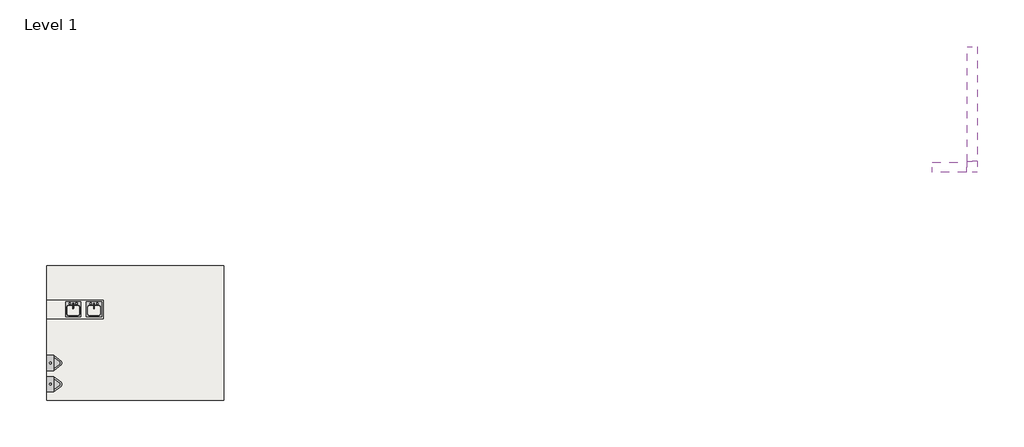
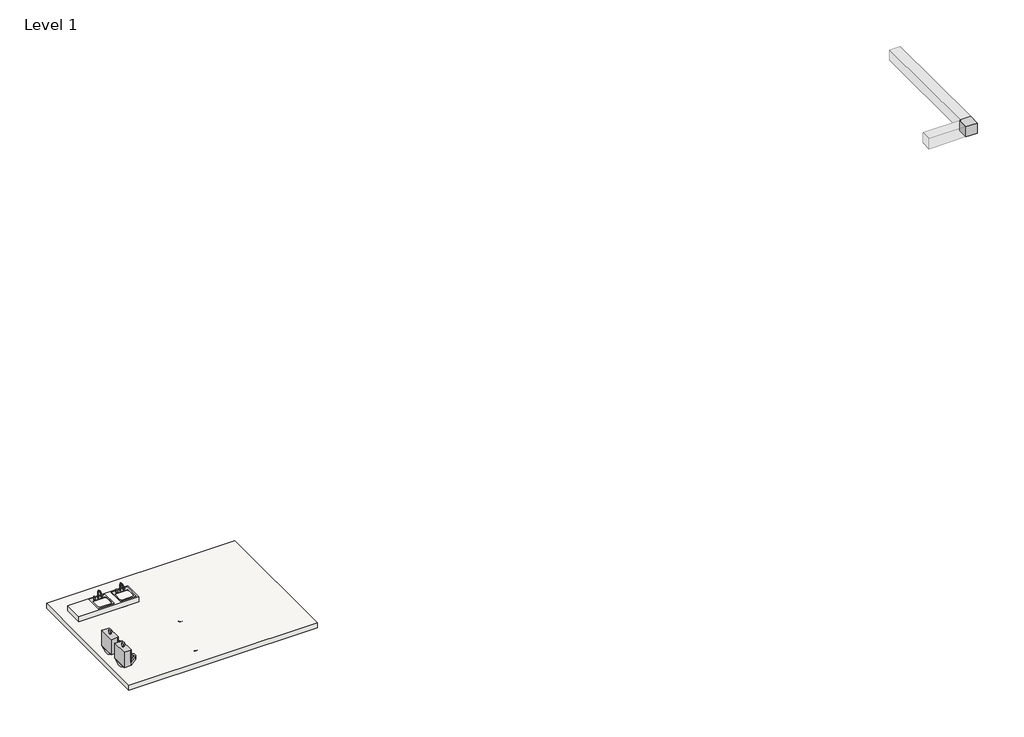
# One storey, incomplete: 5 flow terminals, 4 pipe fittings, 4 pipe segments, 2 duct segments, 2 slabs, 1 duct fitting.
"""IFC4 building model written with IfcOpenShell, lengths in millimetres."""

from ifc_helpers import new_model, si_unit, point, frame, frame_2d, origin, place, context, project, spatial, polyline, circle_curve, trimmed, segment, composite_curve, outline, extrude, transform, mapped, element, save
from components import rectangular_elbow_mitered_standard_4ff1c4e8, flow_terminal_accce45a, flow_terminal_ae45b8c9, flow_terminal_2caf3f76, bend_pvc_sch_40_dwv_standard_a4b99d37, bend_pvc_sch_40_dwv_standard_1eaeee76, reducer_pvc_sch_40_dwv_standard_44865e00

model = new_model("IFC4")

# Units and contexts
model_context = context("Model", 3, world=origin())
ifc_project = project(units=[si_unit("LENGTHUNIT", "METRE", prefix="MILLI")], contexts=[model_context])

# Site, building, storey
site = spatial("IfcSite", under=ifc_project)
building = spatial("IfcBuilding", under=site)
storey = spatial("IfcBuildingStorey", under=building, Name="Level 1", Elevation=0.0)

# Duct fitting
placement = place(None, origin())
rectangular_elbow_mitered_standard_shape = rectangular_elbow_mitered_standard_4ff1c4e8(model_context)
element("IfcDuctFitting", 1, ObjectType="Rectangular Elbow - Mitered : Standard", at=placement, inside=storey, context=model_context, shape_type="MappedRepresentation", body=[
    mapped(rectangular_elbow_mitered_standard_shape, transform((12105.3812915, 1084.8792911, 2743.2), x_axis=(1.0, 0.0, 0.0), y_axis=(0.0, 1.0, 0.0), z_axis=(0.0, 0.0, 1.0))),
])

# Duct segments
element("IfcDuctSegment", 2, ObjectType="Mitered Elbows / Tees", at=placement, inside=storey, context=model_context, shape_type="SweptSolid", body=[
    extrude(outline(polyline([(11952.9812915, 4742.4792911), (12257.7812915, 4742.4792911), (12257.7812915, 1262.6792911), (11952.9812915, 1262.6792911), (11952.9812915, 4742.4792911)])), frame((0.0, 0.0, 2590.8), z_axis=(0.0, 0.0, 1.0), x_axis=(1.0, 0.0, 0.0)), (0.0, 0.0, 1.0), 304.8),
])
element("IfcDuctSegment", 3, ObjectType="Mitered Elbows / Tees", at=placement, inside=storey, context=model_context, shape_type="SweptSolid", body=[
    extrude(outline(polyline([(11927.5812915, 1237.2792911), (11927.5812915, 932.4792911), (10886.1812915, 932.4792911), (10886.1812915, 1237.2792911), (11927.5812915, 1237.2792911)])), frame((0.0, 0.0, 2590.8), z_axis=(0.0, 0.0, 1.0), x_axis=(1.0, 0.0, 0.0)), (0.0, 0.0, 1.0), 304.8),
])

# Flow terminals
flow_terminal_shape = flow_terminal_accce45a(model_context)
element("IfcFlowTerminal", 4, ObjectType="Floor Drain - Round : 5\" Strainer - 2\" Drain", at=placement, inside=storey, context=model_context, shape_type="MappedRepresentation", body=[
    mapped(flow_terminal_shape, transform((-13473.9870906, -4201.0517477, 0.0), x_axis=(1.0, 0.0, 0.0), y_axis=(0.0, 1.0, 0.0), z_axis=(0.0, 0.0, 1.0))),
])
flow_terminal_2_shape = flow_terminal_ae45b8c9(model_context)
element("IfcFlowTerminal", 5, ObjectType="Sink - Island - Single : 18\"x18\" - Private", at=placement, inside=storey, context=model_context, shape_type="MappedRepresentation", body=[
    mapped(flow_terminal_2_shape, transform((-14524.5660694, -3223.0582256, 558.8), x_axis=(1.0, 0.0, 0.0), y_axis=(0.0, 1.0, 0.0), z_axis=(0.0, 0.0, 1.0))),
])
element("IfcFlowTerminal", 6, ObjectType="Sink - Island - Single : 18\"x18\" - Private", at=placement, inside=storey, context=model_context, shape_type="MappedRepresentation", body=[
    mapped(flow_terminal_2_shape, transform((-15154.9134567, -3223.0582256, 558.8), x_axis=(1.0, 0.0, 0.0), y_axis=(0.0, 1.0, 0.0), z_axis=(0.0, 0.0, 1.0))),
])
flow_terminal_3_shape = flow_terminal_2caf3f76(model_context)
element("IfcFlowTerminal", 7, ObjectType="Urinal - Wall Hung : 3/4\" Flush Valve", at=placement, inside=storey, context=model_context, shape_type="MappedRepresentation", body=[
    mapped(flow_terminal_3_shape, transform((-15951.155561, -5492.3088199, 457.2), x_axis=(0.0, 1.0, 0.0), y_axis=(0.0, 0.0, 1.0), z_axis=(1.0, 0.0, 0.0))),
])
element("IfcFlowTerminal", 8, ObjectType="Urinal - Wall Hung : 3/4\" Flush Valve", at=placement, inside=storey, context=model_context, shape_type="MappedRepresentation", body=[
    mapped(flow_terminal_3_shape, transform((-15951.155561, -4850.500571, 457.2), x_axis=(0.0, 1.0, 0.0), y_axis=(0.0, 0.0, 1.0), z_axis=(1.0, 0.0, 0.0))),
])

# Pipe fittings
bend_pvc_sch_40_dwv_standard_shape = bend_pvc_sch_40_dwv_standard_a4b99d37(model_context)
element("IfcPipeFitting", 9, ObjectType="Bend - PVC - Sch 40 - DWV : Standard", at=placement, inside=storey, context=model_context, shape_type="MappedRepresentation", body=[
    mapped(bend_pvc_sch_40_dwv_standard_shape, transform((-13781.8601361, -5494.3570041, -304.8), x_axis=(0.0, 0.0, -1.0), y_axis=(1.0, 0.0, 0.0), z_axis=(0.0, -1.0, 0.0))),
])
bend_pvc_sch_40_dwv_standard_2_shape = bend_pvc_sch_40_dwv_standard_1eaeee76(model_context)
element("IfcPipeFitting", 10, ObjectType="Bend - PVC - Sch 40 - DWV : Standard", at=placement, inside=storey, context=model_context, shape_type="MappedRepresentation", body=[
    mapped(bend_pvc_sch_40_dwv_standard_2_shape, transform((-13473.9870906, -4201.0517477, -304.8), x_axis=(0.0, 0.0, -1.0), y_axis=(0.0, -1.0, 0.0), z_axis=(-1.0, 0.0, 0.0))),
])
element("IfcPipeFitting", 11, ObjectType="Bend - PVC - Sch 40 - DWV : Standard", at=placement, inside=storey, context=model_context, shape_type="MappedRepresentation", body=[
    mapped(bend_pvc_sch_40_dwv_standard_2_shape, transform((-13473.9870906, -5494.3570041, -304.8), x_axis=(1.0, 0.0, 0.0), y_axis=(0.0, 1.0, 0.0), z_axis=(0.0, 0.0, 1.0))),
])
reducer_pvc_sch_40_dwv_standard_shape = reducer_pvc_sch_40_dwv_standard_44865e00(model_context)
element("IfcPipeFitting", 12, ObjectType="Reducer - PVC - Sch 40 - DWV : Standard", at=placement, inside=storey, context=model_context, shape_type="MappedRepresentation", body=[
    mapped(reducer_pvc_sch_40_dwv_standard_shape, transform((-13551.7872906, -5494.3570041, -304.8), x_axis=(-1.0, 0.0, 0.0), y_axis=(0.0, -1.0, 0.0), z_axis=(0.0, 0.0, 1.0))),
])

# Pipe segments
element("IfcPipeSegment", 13, ObjectType="PVC - DWV", at=placement, inside=storey, context=model_context, shape_type="SweptSolid", body=[
    extrude(outline(composite_curve([segment(trimmed(circle_curve(frame_2d((-5494.3570041, -304.8)), 44.45), [point((-5538.8070041, -304.8))], [point((-5494.3570041, -260.35))], False, "CARTESIAN"), True, "CONTINUOUS"), segment(trimmed(circle_curve(frame_2d((-5494.3570041, -304.8)), 44.45), [point((-5494.3570041, -260.35))], [point((-5449.9070041, -304.8))], False, "CARTESIAN"), True, "CONTINUOUS"), segment(trimmed(circle_curve(frame_2d((-5494.3570041, -304.8)), 44.45), [point((-5449.9070041, -304.8))], [point((-5494.3570041, -349.25))], False, "CARTESIAN"), True, "CONTINUOUS"), segment(trimmed(circle_curve(frame_2d((-5494.3570041, -304.8)), 44.45), [point((-5494.3570041, -349.25))], [point((-5538.8070041, -304.8))], False, "CARTESIAN"), True, "CONTINUOUS")], self_intersect=False)), frame((-13665.9599361, 0.0, 0.0), z_axis=(1.0, 0.0, 0.0), x_axis=(0.0, 1.0, 0.0)), (0.0, 0.0, 1.0), 34.7976455),
])
element("IfcPipeSegment", 14, ObjectType="PVC - DWV", at=placement, inside=storey, context=model_context, shape_type="SweptSolid", body=[
    extrude(outline(composite_curve([segment(trimmed(circle_curve(frame_2d((-13781.8601361, -5494.3570041)), 44.45), [point((-13737.4101361, -5494.3570041))], [point((-13781.8601361, -5538.8070041))], False, "CARTESIAN"), True, "CONTINUOUS"), segment(trimmed(circle_curve(frame_2d((-13781.8601361, -5494.3570041)), 44.45), [point((-13781.8601361, -5538.8070041))], [point((-13826.3101361, -5494.3570041))], False, "CARTESIAN"), True, "CONTINUOUS"), segment(trimmed(circle_curve(frame_2d((-13781.8601361, -5494.3570041)), 44.45), [point((-13826.3101361, -5494.3570041))], [point((-13781.8601361, -5449.9070041))], False, "CARTESIAN"), True, "CONTINUOUS"), segment(trimmed(circle_curve(frame_2d((-13781.8601361, -5494.3570041)), 44.45), [point((-13781.8601361, -5449.9070041))], [point((-13737.4101361, -5494.3570041))], False, "CARTESIAN"), True, "CONTINUOUS")], self_intersect=False)), frame((0.0, 0.0, -188.8998), z_axis=(0.0, 0.0, 1.0), x_axis=(1.0, 0.0, 0.0)), (0.0, 0.0, 1.0), 188.8998),
])
element("IfcPipeSegment", 15, ObjectType="PVC - DWV", at=placement, inside=storey, context=model_context, shape_type="SweptSolid", body=[
    extrude(outline(composite_curve([segment(trimmed(circle_curve(frame_2d((-304.8, -13473.9870906)), 30.1625), [point((-304.8, -13504.1495906))], [point((-334.9625, -13473.9870906))], False, "CARTESIAN"), True, "CONTINUOUS"), segment(trimmed(circle_curve(frame_2d((-304.8, -13473.9870906)), 30.1625), [point((-334.9625, -13473.9870906))], [point((-304.8, -13443.8245906))], False, "CARTESIAN"), True, "CONTINUOUS"), segment(trimmed(circle_curve(frame_2d((-304.8, -13473.9870906)), 30.1625), [point((-304.8, -13443.8245906))], [point((-274.6375, -13473.9870906))], False, "CARTESIAN"), True, "CONTINUOUS"), segment(trimmed(circle_curve(frame_2d((-304.8, -13473.9870906)), 30.1625), [point((-274.6375, -13473.9870906))], [point((-304.8, -13504.1495906))], False, "CARTESIAN"), True, "CONTINUOUS")], self_intersect=False)), frame((0.0, -5416.5568041, 0.0), z_axis=(0.0, 1.0, 0.0), x_axis=(0.0, 0.0, 1.0)), (0.0, 0.0, 1.0), 1137.7048564),
])
element("IfcPipeSegment", 16, ObjectType="PVC - DWV", at=placement, inside=storey, context=model_context, shape_type="SweptSolid", body=[
    extrude(outline(composite_curve([segment(trimmed(circle_curve(frame_2d((-13473.9870906, -4201.0517477)), 30.1625), [point((-13443.8245906, -4201.0517477))], [point((-13473.9870906, -4231.2142477))], False, "CARTESIAN"), True, "CONTINUOUS"), segment(trimmed(circle_curve(frame_2d((-13473.9870906, -4201.0517477)), 30.1625), [point((-13473.9870906, -4231.2142477))], [point((-13504.1495906, -4201.0517477))], False, "CARTESIAN"), True, "CONTINUOUS"), segment(trimmed(circle_curve(frame_2d((-13473.9870906, -4201.0517477)), 30.1625), [point((-13504.1495906, -4201.0517477))], [point((-13473.9870906, -4170.8892477))], False, "CARTESIAN"), True, "CONTINUOUS"), segment(trimmed(circle_curve(frame_2d((-13473.9870906, -4201.0517477)), 30.1625), [point((-13473.9870906, -4170.8892477))], [point((-13443.8245906, -4201.0517477))], False, "CARTESIAN"), True, "CONTINUOUS")], self_intersect=False)), frame((0.0, 0.0, -226.9998), z_axis=(0.0, 0.0, 1.0), x_axis=(1.0, 0.0, 0.0)), (0.0, 0.0, 1.0), 52.3748),
])

# Slabs
element("IfcSlab", 17, ObjectType="Generic -6\"", at=placement, inside=storey, context=model_context, shape_type="SweptSolid", body=[
    extrude(outline(polyline([(-10588.580561, -1902.1411222), (-10588.580561, -5980.4286222), (-15963.855561, -5980.4286222), (-15963.855561, -1902.1411222), (-10588.580561, -1902.1411222)])), frame((0.0, 0.0, -152.4), z_axis=(0.0, 0.0, 1.0), x_axis=(1.0, 0.0, 0.0)), (0.0, 0.0, 1.0), 152.4),
])
element("IfcSlab", 18, ObjectType="Generic -6\"", at=placement, inside=storey, context=model_context, shape_type="SweptSolid", body=[
    extrude(outline(polyline([(-14250.943061, -2943.5411222), (-14250.943061, -3502.3411222), (-15963.855561, -3502.3411222), (-15963.855561, -2943.5411222), (-14250.943061, -2943.5411222)])), frame((0.0, 0.0, 406.4), z_axis=(0.0, 0.0, 1.0), x_axis=(1.0, 0.0, 0.0)), (0.0, 0.0, 1.0), 152.4),
])

save(model, "model.ifc")
